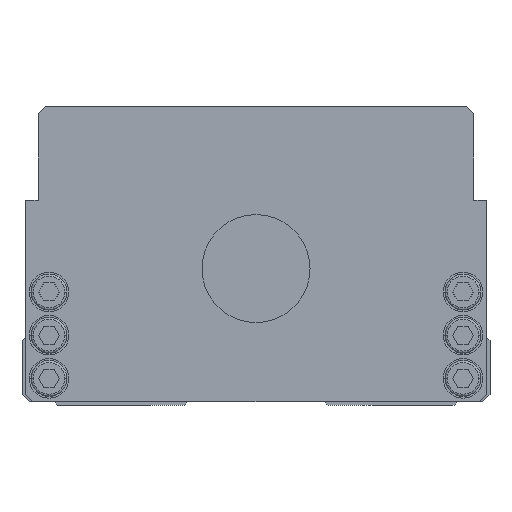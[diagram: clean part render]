
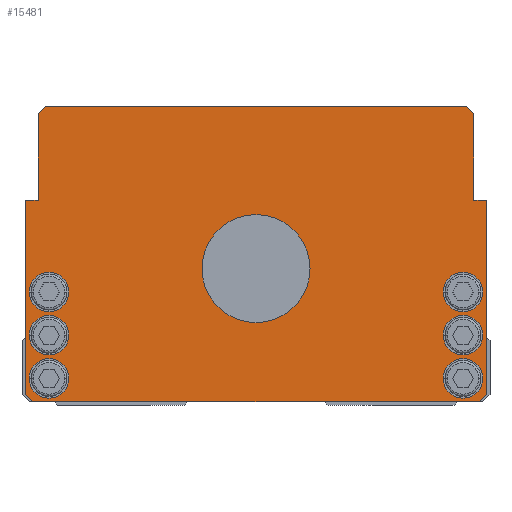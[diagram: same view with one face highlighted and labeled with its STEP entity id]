
A CAD part, front view. The second image highlights one B-rep face of the part: STEP entity #15481.
In plain terms, the highlighted planar face has unit normal (0, -1, 0).
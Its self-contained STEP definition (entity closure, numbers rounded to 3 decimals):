
#5651=VERTEX_POINT('',#16696);
#5659=VERTEX_POINT('',#16704);
#5835=EDGE_CURVE('',#14921,#5659,#16903,.T.);
#5953=VERTEX_POINT('',#17029);
#5955=EDGE_CURVE('',#6763,#10817,#17031,.T.);
#6285=VERTEX_POINT('',#17390);
#6399=EDGE_CURVE('',#15819,#7631,#17513,.T.);
#6763=VERTEX_POINT('',#17927);
#6939=VERTEX_POINT('',#18125);
#6967=EDGE_CURVE('',#10883,#12431,#18155,.T.);
#7065=EDGE_CURVE('',#10817,#6285,#18259,.T.);
#7395=EDGE_CURVE('',#7621,#7597,#18629,.T.);
#7597=VERTEX_POINT('',#18865);
#7621=VERTEX_POINT('',#18892);
#7631=VERTEX_POINT('',#18902);
#7703=EDGE_CURVE('',#9921,#8443,#18981,.T.);
#8443=VERTEX_POINT('',#19799);
#8461=VERTEX_POINT('',#19817);
#8833=EDGE_CURVE('',#5651,#9535,#20231,.T.);
#9297=VERTEX_POINT('',#20761);
#9403=EDGE_CURVE('',#15315,#8461,#20890,.T.);
#9535=VERTEX_POINT('',#21043);
#9733=EDGE_CURVE('',#11335,#5953,#21266,.T.);
#9809=EDGE_CURVE('',#7631,#11335,#21355,.T.);
#9921=VERTEX_POINT('',#21477);
#10507=VERTEX_POINT('',#22119);
#10557=VERTEX_POINT('',#22177);
#10817=VERTEX_POINT('',#22464);
#10851=EDGE_CURVE('',#9297,#6763,#22501,.T.);
#10883=VERTEX_POINT('',#22533);
#10969=EDGE_CURVE('',#16063,#10557,#22622,.T.);
#11145=EDGE_CURVE('',#15415,#12133,#22815,.T.);
#11335=VERTEX_POINT('',#23029);
#11437=EDGE_CURVE('',#12133,#9297,#23141,.T.);
#11463=EDGE_CURVE('',#8461,#15315,#23170,.T.);
#11855=EDGE_CURVE('',#6285,#15819,#23625,.T.);
#12133=VERTEX_POINT('',#23943);
#12431=VERTEX_POINT('',#24276);
#12533=EDGE_CURVE('',#9535,#5651,#24385,.T.);
#12955=EDGE_CURVE('',#5659,#14921,#24853,.T.);
#13031=EDGE_CURVE('',#8443,#9921,#24933,.T.);
#13043=EDGE_CURVE('',#12431,#10883,#24946,.T.);
#13585=EDGE_CURVE('',#10557,#16063,#25539,.T.);
#14423=EDGE_CURVE('',#5953,#6939,#26480,.T.);
#14587=EDGE_CURVE('',#6939,#10507,#26660,.T.);
#14921=VERTEX_POINT('',#27032);
#15315=VERTEX_POINT('',#27474);
#15415=VERTEX_POINT('',#27589);
#15481=ADVANCED_FACE('',(#27666,#27667,#27668,#27669,#27670,#27671,#27672,#27673),#27674,.T.);
#15521=EDGE_CURVE('',#10507,#15415,#27720,.T.);
#15783=EDGE_CURVE('',#7597,#7621,#28009,.T.);
#15819=VERTEX_POINT('',#28046);
#16063=VERTEX_POINT('',#28314);
#16696=CARTESIAN_POINT('',(63.0,0.0,19.5));
#16704=CARTESIAN_POINT('',(-15.0,0.0,38.0));
#16903=CIRCLE('',#29298,15.0);
#17029=CARTESIAN_POINT('',(-58.5,0.0,83.0));
#17031=LINE('',#29480,#29481);
#17390=CARTESIAN_POINT('',(-64.0,0.0,3.0));
#17513=LINE('',#30172,#30173);
#17927=CARTESIAN_POINT('',(62.0,0.0,1.0));
#18125=CARTESIAN_POINT('',(58.5,0.0,83.0));
#18155=CIRCLE('',#31032,5.5);
#18259=LINE('',#31182,#31183);
#18629=CIRCLE('',#31685,5.5);
#18865=CARTESIAN_POINT('',(-63.0,0.0,7.5));
#18892=CARTESIAN_POINT('',(-52.0,0.0,7.5));
#18902=CARTESIAN_POINT('',(-60.5,0.0,57.0));
#18981=CIRCLE('',#32163,5.5);
#19799=CARTESIAN_POINT('',(52.0,0.0,7.5));
#19817=CARTESIAN_POINT('',(-52.0,0.0,19.5));
#20231=CIRCLE('',#33903,5.5);
#20761=CARTESIAN_POINT('',(64.0,0.0,3.0));
#20890=CIRCLE('',#34784,5.5);
#21043=CARTESIAN_POINT('',(52.0,0.0,19.5));
#21266=LINE('',#35287,#35288);
#21355=LINE('',#35416,#35417);
#21477=CARTESIAN_POINT('',(63.0,0.0,7.5));
#22119=CARTESIAN_POINT('',(60.5,0.0,81.0));
#22177=CARTESIAN_POINT('',(-52.0,0.0,31.5));
#22464=CARTESIAN_POINT('',(-62.0,0.0,1.0));
#22501=LINE('',#37000,#37001);
#22533=CARTESIAN_POINT('',(63.0,0.0,31.5));
#22622=CIRCLE('',#37186,5.5);
#22815=LINE('',#37462,#37463);
#23029=CARTESIAN_POINT('',(-60.5,0.0,81.0));
#23141=LINE('',#37913,#37914);
#23170=CIRCLE('',#37953,5.5);
#23625=LINE('',#38548,#38549);
#23943=CARTESIAN_POINT('',(64.0,0.0,57.0));
#24276=CARTESIAN_POINT('',(52.0,0.0,31.5));
#24385=CIRCLE('',#39586,5.5);
#24853=CIRCLE('',#40253,15.0);
#24933=CIRCLE('',#40365,5.5);
#24946=CIRCLE('',#40384,5.5);
#25539=CIRCLE('',#41202,5.5);
#26480=LINE('',#42500,#42501);
#26660=LINE('',#42747,#42748);
#27032=CARTESIAN_POINT('',(15.0,0.0,38.0));
#27474=CARTESIAN_POINT('',(-63.0,0.0,19.5));
#27589=CARTESIAN_POINT('',(60.5,0.0,57.0));
#27666=FACE_BOUND('',#44109,.T.);
#27667=FACE_BOUND('',#44110,.T.);
#27668=FACE_BOUND('',#44111,.T.);
#27669=FACE_BOUND('',#44112,.T.);
#27670=FACE_BOUND('',#44113,.T.);
#27671=FACE_BOUND('',#44114,.T.);
#27672=FACE_BOUND('',#44115,.T.);
#27673=FACE_OUTER_BOUND('',#44116,.T.);
#27674=PLANE('',#44117);
#27720=LINE('',#44176,#44177);
#28009=CIRCLE('',#44574,5.5);
#28046=CARTESIAN_POINT('',(-64.0,0.0,57.0));
#28314=CARTESIAN_POINT('',(-63.0,0.0,31.5));
#29298=AXIS2_PLACEMENT_3D('',#46193,#46194,#46195);
#29480=CARTESIAN_POINT('',(-62.0,0.0,1.0));
#29481=VECTOR('',#46326,1.0);
#30172=CARTESIAN_POINT('',(-60.5,0.0,57.0));
#30173=VECTOR('',#46887,1.0);
#31032=AXIS2_PLACEMENT_3D('',#47657,#47658,#47659);
#31182=CARTESIAN_POINT('',(-64.0,0.0,3.0));
#31183=VECTOR('',#47755,1.);
#31685=AXIS2_PLACEMENT_3D('',#48177,#48178,#48179);
#32163=AXIS2_PLACEMENT_3D('',#48610,#48611,#48612);
#33903=AXIS2_PLACEMENT_3D('',#50004,#50005,#50006);
#34784=AXIS2_PLACEMENT_3D('',#50843,#50844,#50845);
#35287=CARTESIAN_POINT('',(-58.5,0.0,83.0));
#35288=VECTOR('',#51320,1.);
#35416=CARTESIAN_POINT('',(-60.5,0.0,81.0));
#35417=VECTOR('',#51439,1.0);
#37000=CARTESIAN_POINT('',(62.0,0.0,1.0));
#37001=VECTOR('',#52725,1.);
#37186=AXIS2_PLACEMENT_3D('',#52814,#52815,#52816);
#37462=CARTESIAN_POINT('',(64.0,0.0,57.0));
#37463=VECTOR('',#53025,1.0);
#37913=CARTESIAN_POINT('',(64.0,0.0,3.0));
#37914=VECTOR('',#53403,1.0);
#37953=AXIS2_PLACEMENT_3D('',#53435,#53436,#53437);
#38548=CARTESIAN_POINT('',(-64.0,0.0,57.0));
#38549=VECTOR('',#54003,1.0);
#39586=AXIS2_PLACEMENT_3D('',#54922,#54923,#54924);
#40253=AXIS2_PLACEMENT_3D('',#55440,#55441,#55442);
#40365=AXIS2_PLACEMENT_3D('',#55501,#55502,#55503);
#40384=AXIS2_PLACEMENT_3D('',#55517,#55518,#55519);
#41202=AXIS2_PLACEMENT_3D('',#56196,#56197,#56198);
#42500=CARTESIAN_POINT('',(58.5,0.0,83.0));
#42501=VECTOR('',#57287,1.0);
#42747=CARTESIAN_POINT('',(60.5,0.0,81.0));
#42748=VECTOR('',#57494,1.);
#44109=EDGE_LOOP('',(#58741,#58742));
#44110=EDGE_LOOP('',(#58743,#58744));
#44111=EDGE_LOOP('',(#58745,#58746));
#44112=EDGE_LOOP('',(#58747,#58748));
#44113=EDGE_LOOP('',(#58749,#58750));
#44114=EDGE_LOOP('',(#58751,#58752));
#44115=EDGE_LOOP('',(#58753,#58754));
#44116=EDGE_LOOP('',(#58755,#58756,#58757,#58758,#58759,#58760,#58761,#58762,#58763,#58764,#58765,#58766));
#44117=AXIS2_PLACEMENT_3D('',#58767,#58768,#58769);
#44176=CARTESIAN_POINT('',(60.5,0.0,57.0));
#44177=VECTOR('',#58835,1.0);
#44574=AXIS2_PLACEMENT_3D('',#59138,#59139,#59140);
#46193=CARTESIAN_POINT('',(0.0,0.0,38.0));
#46194=DIRECTION('',(-0.0,1.0,0.0));
#46195=DIRECTION('',(1.0,0.0,0.0));
#46326=DIRECTION('',(-1.0,0.0,-0.0));
#46887=DIRECTION('',(1.0,0.0,0.0));
#47657=CARTESIAN_POINT('',(57.5,0.0,31.5));
#47658=DIRECTION('',(-0.0,1.0,0.0));
#47659=DIRECTION('',(1.0,0.0,0.0));
#47755=DIRECTION('',(-0.707,0.0,0.707));
#48177=CARTESIAN_POINT('',(-57.5,0.0,7.5));
#48178=DIRECTION('',(-0.0,1.0,0.0));
#48179=DIRECTION('',(1.0,0.0,0.0));
#48610=CARTESIAN_POINT('',(57.5,0.0,7.5));
#48611=DIRECTION('',(-0.0,1.0,0.0));
#48612=DIRECTION('',(1.0,0.0,0.0));
#50004=CARTESIAN_POINT('',(57.5,0.0,19.5));
#50005=DIRECTION('',(-0.0,1.0,0.0));
#50006=DIRECTION('',(1.0,0.0,0.0));
#50843=CARTESIAN_POINT('',(-57.5,0.0,19.5));
#50844=DIRECTION('',(-0.0,1.0,0.0));
#50845=DIRECTION('',(1.0,0.0,0.0));
#51320=DIRECTION('',(0.707,0.0,0.707));
#51439=DIRECTION('',(0.0,0.0,1.0));
#52725=DIRECTION('',(-0.707,0.0,-0.707));
#52814=CARTESIAN_POINT('',(-57.5,0.0,31.5));
#52815=DIRECTION('',(-0.0,1.0,0.0));
#52816=DIRECTION('',(1.0,0.0,0.0));
#53025=DIRECTION('',(1.0,0.0,0.0));
#53403=DIRECTION('',(-0.0,0.0,-1.0));
#53435=CARTESIAN_POINT('',(-57.5,0.0,19.5));
#53436=DIRECTION('',(-0.0,1.0,0.0));
#53437=DIRECTION('',(1.0,0.0,0.0));
#54003=DIRECTION('',(0.0,0.0,1.0));
#54922=CARTESIAN_POINT('',(57.5,0.0,19.5));
#54923=DIRECTION('',(-0.0,1.0,0.0));
#54924=DIRECTION('',(1.0,0.0,0.0));
#55440=CARTESIAN_POINT('',(0.0,0.0,38.0));
#55441=DIRECTION('',(-0.0,1.0,0.0));
#55442=DIRECTION('',(1.0,0.0,0.0));
#55501=CARTESIAN_POINT('',(57.5,0.0,7.5));
#55502=DIRECTION('',(-0.0,1.0,0.0));
#55503=DIRECTION('',(1.0,0.0,0.0));
#55517=CARTESIAN_POINT('',(57.5,0.0,31.5));
#55518=DIRECTION('',(-0.0,1.0,0.0));
#55519=DIRECTION('',(1.0,0.0,0.0));
#56196=CARTESIAN_POINT('',(-57.5,0.0,31.5));
#56197=DIRECTION('',(-0.0,1.0,0.0));
#56198=DIRECTION('',(1.0,0.0,0.0));
#57287=DIRECTION('',(1.0,0.0,0.0));
#57494=DIRECTION('',(0.707,0.0,-0.707));
#58741=ORIENTED_EDGE('',*,*,#5835,.T.);
#58742=ORIENTED_EDGE('',*,*,#12955,.T.);
#58743=ORIENTED_EDGE('',*,*,#6967,.T.);
#58744=ORIENTED_EDGE('',*,*,#13043,.T.);
#58745=ORIENTED_EDGE('',*,*,#8833,.T.);
#58746=ORIENTED_EDGE('',*,*,#12533,.T.);
#58747=ORIENTED_EDGE('',*,*,#7703,.T.);
#58748=ORIENTED_EDGE('',*,*,#13031,.T.);
#58749=ORIENTED_EDGE('',*,*,#13585,.T.);
#58750=ORIENTED_EDGE('',*,*,#10969,.T.);
#58751=ORIENTED_EDGE('',*,*,#11463,.T.);
#58752=ORIENTED_EDGE('',*,*,#9403,.T.);
#58753=ORIENTED_EDGE('',*,*,#7395,.T.);
#58754=ORIENTED_EDGE('',*,*,#15783,.T.);
#58755=ORIENTED_EDGE('',*,*,#7065,.F.);
#58756=ORIENTED_EDGE('',*,*,#5955,.F.);
#58757=ORIENTED_EDGE('',*,*,#10851,.F.);
#58758=ORIENTED_EDGE('',*,*,#11437,.F.);
#58759=ORIENTED_EDGE('',*,*,#11145,.F.);
#58760=ORIENTED_EDGE('',*,*,#15521,.F.);
#58761=ORIENTED_EDGE('',*,*,#14587,.F.);
#58762=ORIENTED_EDGE('',*,*,#14423,.F.);
#58763=ORIENTED_EDGE('',*,*,#9733,.F.);
#58764=ORIENTED_EDGE('',*,*,#9809,.F.);
#58765=ORIENTED_EDGE('',*,*,#6399,.F.);
#58766=ORIENTED_EDGE('',*,*,#11855,.F.);
#58767=CARTESIAN_POINT('',(0.,0.0,41.562));
#58768=DIRECTION('',(0.0,-1.0,0.0));
#58769=DIRECTION('',(1.0,0.0,0.0));
#58835=DIRECTION('',(-0.0,0.0,-1.0));
#59138=CARTESIAN_POINT('',(-57.5,0.0,7.5));
#59139=DIRECTION('',(-0.0,1.0,0.0));
#59140=DIRECTION('',(1.0,0.0,0.0));
